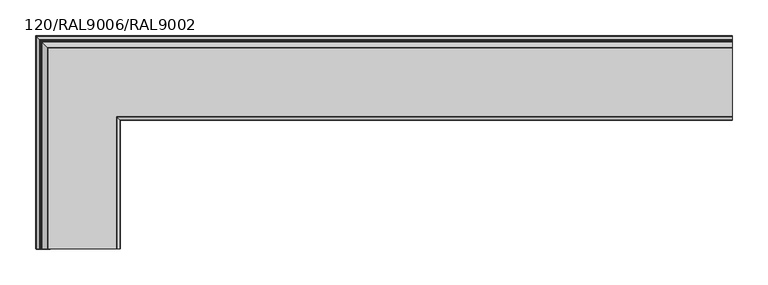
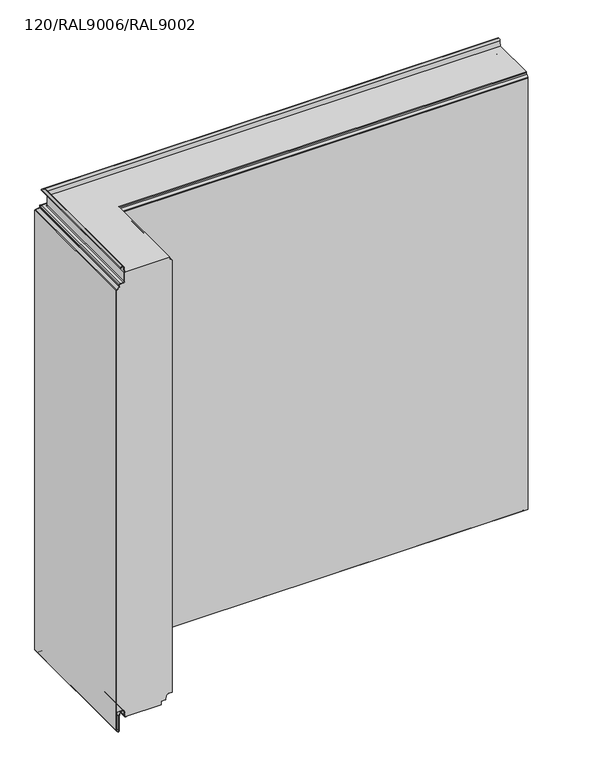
"""IFC4 building model written with IfcOpenShell, lengths in millimetres: plate geometry, TR_C_H_FHL_Corner_Tr_B : 120/RAL9006/RAL9002."""

from ifc_helpers import new_model, si_unit, frame, origin, place, context, project, spatial, polyline, circle_curve, ellipse_curve, source, transform, mapped, element, save
from ifc_brep_helpers import plane_surface, cylinder_surface, revolved_surface, advanced_brep


def plate_120_ral9006_ral9002_1deed0a9(model_context):
    return source(origin(), model_context, "Body", "AdvancedBrep", [
        advanced_brep(
        [(490.0, -17.4455763, 1000.0), (490.0, -113.2, 1000.0), (490.0, -113.2, 998.1), (490.0, -114.1665476, 995.7665476), (490.0, -118.5556349, 991.3774603), (490.0, -119.2, 989.8218254), (490.0, -119.2, 19.9), (490.0, -110.55, 19.9), (490.0, -106.364567, 16.3880048), (490.0, -105.0281817, 8.808987), (490.0, -103.9448932, 7.9), (490.0, -94.86, 7.9), (490.0, -94.86, 0.0), (490.0, -20.8, 0.0), (490.0, -19.7908279, 0.1), (490.0, -18.0972969, 1.6518352), (490.0, -17.2333835, 11.5264116), (490.0, -12.3520294, 15.9993484), (490.0, -0.8, 15.9993484), (490.0, -0.8, 963.4370797), (490.0, -1.3564971, 964.7805826), (490.0, -6.179899, 969.6039845), (490.0, -7.0, 971.5838835), (490.0, -7.0, 974.4), (490.0, -8.9, 976.3), (490.0, -14.8, 976.3), (490.0, -17.6, 979.1), (490.0, -17.6, 998.2349288), (-472.5544237, -17.4455763, 1000.0), (-472.5544237, -300.0, 1000.0), (-376.8, -300.0, 1000.0), (-376.8, -113.2, 1000.0), (-370.8, -119.2, 989.8218254), (-370.8, -119.2, 19.9), (-395.14, -94.86, 0.0), (-395.14, -300.0, 0.0), (-469.2, -300.0, 0.0), (-469.2, -20.8, 0.0), (-489.2, -0.8, 15.9993484), (-489.2, -0.8, 963.4370797), (-472.4, -300.0, 998.2349288), (-472.4, -300.0, 979.1), (-475.2, -300.0, 976.3), (-481.1, -300.0, 976.3), (-483.0, -300.0, 974.4), (-483.0, -300.0, 971.5838835), (-483.820101, -300.0, 969.6039845), (-488.6435029, -300.0, 964.7805826), (-489.2, -300.0, 963.4370797), (-489.2, -300.0, 15.9993484), (-477.6479706, -300.0, 15.9993484), (-472.7666165, -300.0, 11.5264116), (-471.9027031, -300.0, 1.6518352), (-470.2091721, -300.0, 0.1), (-395.14, -300.0, 7.9), (-386.0551068, -300.0, 7.9), (-384.9718183, -300.0, 8.808987), (-383.635433, -300.0, 16.3880048), (-379.45, -300.0, 19.9), (-370.8, -300.0, 19.9), (-370.8, -300.0, 989.8218254), (-371.4443651, -300.0, 991.3774603), (-375.8334524, -300.0, 995.7665476), (-376.8, -300.0, 998.1), (-376.8, -113.2, 998.1), (-375.8334524, -114.1665476, 995.7665476), (-371.4443651, -118.5556349, 991.3774603), (-379.45, -110.55, 19.9), (-383.635433, -106.364567, 16.3880048), (-384.9718183, -105.0281817, 8.808987), (-386.0551068, -103.9448932, 7.9), (-395.14, -94.86, 7.9), (-470.2091721, -19.7908279, 0.1), (-471.9027031, -18.0972969, 1.6518352), (-472.7666165, -17.2333835, 11.5264116), (-477.6479706, -12.3520294, 15.9993484), (-488.6435029, -1.3564971, 964.7805826), (-483.820101, -6.179899, 969.6039845), (-483.0, -7.0, 971.5838835), (-483.0, -7.0, 974.4), (-481.1, -8.9, 976.3), (-475.2, -14.8, 976.3), (-472.4, -17.6, 979.1), (-472.4, -17.6, 998.2349288)],
        [
            (0, 1),
            (1, 2),
            (2, 3, circle_curve(frame((490.0, -116.5, 998.1), z_axis=(-1.0, 0.0, 0.0), x_axis=(0.0, -1.0, 0.0)), 3.3)),
            (3, 4),
            (4, 5, circle_curve(frame((490.0, -117.0, 989.8218254), z_axis=(1.0, 0.0, 0.0), x_axis=(0.0, -1.0, 0.0)), 2.2)),
            (5, 6),
            (6, 7),
            (7, 8, circle_curve(frame((490.0, -110.55, 15.65), z_axis=(-1.0, 0.0, 0.0), x_axis=(0.0, -1.0, 0.0)), 4.25)),
            (8, 9),
            (9, 10, circle_curve(frame((490.0, -103.9448932, 9.0), z_axis=(1.0, 0.0, 0.0), x_axis=(0.0, -1.0, 0.0)), 1.1)),
            (10, 11),
            (11, 12),
            (12, 13),
            (13, 14),
            (14, 15, circle_curve(frame((490.0, -19.7908279, 1.8), z_axis=(1.0, 0.0, 0.0), x_axis=(0.0, -1.0, 0.0)), 1.7)),
            (15, 16),
            (16, 17, circle_curve(frame((490.0, -12.3520294, 11.0993484), z_axis=(-1.0, 0.0, 0.0), x_axis=(0.0, -1.0, 0.0)), 4.9)),
            (17, 18),
            (18, 19),
            (19, 20, circle_curve(frame((490.0, -2.7, 963.4370797), z_axis=(1.0, 0.0, 0.0), x_axis=(0.0, -1.0, 0.0)), 1.9)),
            (20, 21),
            (21, 22, circle_curve(frame((490.0, -4.2, 971.5838835), z_axis=(-1.0, 0.0, 0.0), x_axis=(0.0, -1.0, 0.0)), 2.8)),
            (22, 23),
            (23, 24, circle_curve(frame((490.0, -8.9, 974.4), z_axis=(1.0, 0.0, 0.0), x_axis=(0.0, -1.0, 0.0)), 1.9)),
            (24, 25),
            (25, 26, circle_curve(frame((490.0, -14.8, 979.1), z_axis=(-1.0, 0.0, 0.0), x_axis=(0.0, -1.0, 0.0)), 2.8)),
            (26, 27),
            (27, 0),
            (0, 28),
            (28, 29),
            (29, 30),
            (30, 31),
            (31, 1),
            (5, 32),
            (32, 33),
            (33, 6),
            (12, 34),
            (34, 35),
            (35, 36),
            (36, 37),
            (37, 13),
            (18, 38),
            (38, 39),
            (39, 19),
            (29, 40),
            (40, 41),
            (41, 42, circle_curve(frame((-475.2, -300.0, 979.1), z_axis=(0.0, 1.0, 0.0), x_axis=(1.0, 0.0, 0.0)), 2.8)),
            (42, 43),
            (43, 44, circle_curve(frame((-481.1, -300.0, 974.4), z_axis=(0.0, -1.0, 0.0), x_axis=(1.0, 0.0, 0.0)), 1.9)),
            (44, 45),
            (45, 46, circle_curve(frame((-485.8, -300.0, 971.5838835), z_axis=(0.0, 1.0, 0.0), x_axis=(1.0, 0.0, 0.0)), 2.8)),
            (46, 47),
            (47, 48, circle_curve(frame((-487.3, -300.0, 963.4370797), z_axis=(0.0, -1.0, 0.0), x_axis=(1.0, 0.0, 0.0)), 1.9)),
            (48, 49),
            (49, 50),
            (50, 51, circle_curve(frame((-477.6479706, -300.0, 11.0993484), z_axis=(0.0, 1.0, 0.0), x_axis=(1.0, 0.0, 0.0)), 4.9)),
            (51, 52),
            (52, 53, circle_curve(frame((-470.2091721, -300.0, 1.8), z_axis=(0.0, -1.0, 0.0), x_axis=(1.0, 0.0, 0.0)), 1.7)),
            (53, 36),
            (35, 54),
            (54, 55),
            (55, 56, circle_curve(frame((-386.0551068, -300.0, 9.0), z_axis=(0.0, -1.0, 0.0), x_axis=(1.0, 0.0, 0.0)), 1.1)),
            (56, 57),
            (57, 58, circle_curve(frame((-379.45, -300.0, 15.65), z_axis=(0.0, 1.0, 0.0), x_axis=(1.0, 0.0, 0.0)), 4.25)),
            (58, 59),
            (59, 60),
            (60, 61, circle_curve(frame((-373.0, -300.0, 989.8218254), z_axis=(0.0, -1.0, 0.0), x_axis=(1.0, 0.0, 0.0)), 2.2)),
            (61, 62),
            (62, 63, circle_curve(frame((-373.5, -300.0, 998.1), z_axis=(0.0, 1.0, 0.0), x_axis=(1.0, 0.0, 0.0)), 3.3)),
            (63, 30),
            (32, 60),
            (59, 33),
            (38, 49),
            (48, 39),
            (31, 64),
            (64, 2),
            (64, 65, ellipse_curve(frame((-373.5, -116.5, 998.1), z_axis=(-0.7071067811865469, -0.7071067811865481, 0.0), x_axis=(-0.7071067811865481, 0.7071067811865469, 0.0)), 4.6669048, 3.3)),
            (65, 3),
            (65, 66),
            (66, 4),
            (66, 32, ellipse_curve(frame((-373.0, -117.0, 989.8218254), z_axis=(0.7071067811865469, 0.7071067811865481, 0.0), x_axis=(0.7071067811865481, -0.7071067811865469, 0.0)), 3.1112698, 2.2)),
            (58, 67),
            (67, 7),
            (67, 68, ellipse_curve(frame((-379.45, -110.55, 15.65), z_axis=(-0.7071067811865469, -0.7071067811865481, 0.0), x_axis=(-0.7071067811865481, 0.7071067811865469, 0.0)), 6.0104076, 4.25)),
            (68, 8),
            (68, 69),
            (69, 9),
            (69, 70, ellipse_curve(frame((-386.0551068, -103.9448932, 9.0), z_axis=(0.7071067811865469, 0.7071067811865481, 0.0), x_axis=(0.7071067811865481, -0.7071067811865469, 0.0)), 1.5556349, 1.1)),
            (70, 10),
            (70, 55),
            (54, 71),
            (71, 11),
            (71, 34),
            (37, 72),
            (72, 14),
            (72, 73, ellipse_curve(frame((-470.2091721, -19.7908279, 1.8), z_axis=(0.7071067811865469, 0.7071067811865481, 0.0), x_axis=(0.7071067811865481, -0.7071067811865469, 0.0)), 2.4041631, 1.7)),
            (73, 15),
            (73, 74),
            (74, 16),
            (74, 75, ellipse_curve(frame((-477.6479706, -12.3520294, 11.0993484), z_axis=(-0.7071067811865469, -0.7071067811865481, 0.0), x_axis=(-0.7071067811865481, 0.7071067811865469, 0.0)), 6.9296465, 4.9)),
            (75, 17),
            (75, 50),
            (39, 76, ellipse_curve(frame((-487.3, -2.7, 963.4370797), z_axis=(0.7071067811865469, 0.7071067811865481, 0.0), x_axis=(0.7071067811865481, -0.7071067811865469, 0.0)), 2.6870058, 1.9)),
            (76, 20),
            (76, 77),
            (77, 21),
            (77, 78, ellipse_curve(frame((-485.8, -4.2, 971.5838835), z_axis=(-0.7071067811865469, -0.7071067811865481, 0.0), x_axis=(-0.7071067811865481, 0.7071067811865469, 0.0)), 3.959798, 2.8)),
            (78, 22),
            (78, 79),
            (79, 23),
            (79, 80, ellipse_curve(frame((-481.1, -8.9, 974.4), z_axis=(0.7071067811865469, 0.7071067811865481, 0.0), x_axis=(0.7071067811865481, -0.7071067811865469, 0.0)), 2.6870058, 1.9)),
            (80, 24),
            (80, 43),
            (42, 81),
            (81, 25),
            (81, 82, ellipse_curve(frame((-475.2, -14.8, 979.1), z_axis=(-0.7071067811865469, -0.7071067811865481, 0.0), x_axis=(-0.7071067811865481, 0.7071067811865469, 0.0)), 3.959798, 2.8)),
            (82, 26),
            (82, 83),
            (83, 27),
            (83, 28),
            (63, 64),
            (62, 65),
            (61, 66),
            (57, 68),
            (56, 69),
            (53, 72),
            (52, 73),
            (51, 74),
            (47, 76),
            (46, 77),
            (45, 78),
            (44, 79),
            (41, 82),
            (40, 83),
        ],
        [
            plane_surface(frame((490.0, 0.0, 0.0), z_axis=(1.0, 0.0, 0.0), x_axis=(0.0, 0.0, 1.0))),
            plane_surface(frame((490.0, -17.4455763, 1000.0), z_axis=(0.0, 0.0, 1.0), x_axis=(-1.0, 0.0, 0.0))),
            plane_surface(frame((490.0, -119.2, 989.8218254), z_axis=(0.0, -1.0, 0.0), x_axis=(-1.0, 0.0, 0.0))),
            plane_surface(frame((490.0, -94.86, 0.0), z_axis=(0.0, 0.0, -1.0), x_axis=(-1.0, 0.0, 0.0))),
            plane_surface(frame((490.0, -0.8, 15.9993484), z_axis=(0.0, 1.0, 0.0), x_axis=(-1.0, 0.0, 0.0))),
            plane_surface(frame((-490.0, -300.0, 0.0), z_axis=(0.0, -1.0, 0.0), x_axis=(0.0, 0.0, 1.0))),
            plane_surface(frame((-370.8, -119.2, 989.8218254), z_axis=(1.0, 0.0, 0.0), x_axis=(0.0, -1.0, 0.0))),
            plane_surface(frame((-489.2, -0.8, 15.9993484), z_axis=(-1.0, 0.0, 0.0), x_axis=(0.0, -1.0, 0.0))),
            plane_surface(frame((490.0, -113.2, 1000.0), z_axis=(0.0, -1.0, 0.0), x_axis=(-1.0, 0.0, 0.0))),
            revolved_surface(polyline([(-376.800000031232, -119.8, 998.1), (490.0, -119.8, 998.1)]), (490.0, -116.5, 998.1), (-1.0, 0.0, 0.0)),
            plane_surface(frame((490.0, -114.1665476, 995.7665476), z_axis=(0.0, -0.7071067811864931, 0.7071067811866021), x_axis=(-1.0, 0.0, 0.0))),
            cylinder_surface(frame((490.0, -117.0, 989.8218254), z_axis=(1.0, 0.0, 0.0), x_axis=(0.0, -1.0, 0.0)), 2.2),
            plane_surface(frame((490.0, -119.2, 19.9), z_axis=(0.0, 0.0, -1.0), x_axis=(-1.0, 0.0, 0.0))),
            revolved_surface(polyline([(-383.6999999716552, -114.8, 15.65), (490.0, -114.8, 15.65)]), (490.0, -110.55, 15.65), (-1.0, 0.0, 0.0)),
            plane_surface(frame((490.0, -106.364567, 16.3880048), z_axis=(0.0, -0.9848077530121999, -0.17364817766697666), x_axis=(-1.0, 0.0, 0.0))),
            cylinder_surface(frame((490.0, -103.9448932, 9.0), z_axis=(1.0, 0.0, 0.0), x_axis=(0.0, -1.0, 0.0)), 1.1),
            plane_surface(frame((490.0, -103.9448932, 7.9), z_axis=(0.0, 0.0, -1.0), x_axis=(-1.0, 0.0, 0.0))),
            plane_surface(frame((490.0, -94.86, 7.9), z_axis=(0.0, -1.0, 0.0), x_axis=(-1.0, 0.0, 0.0))),
            plane_surface(frame((490.0, -20.8, 0.0), z_axis=(0.0, 0.09860819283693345, -0.9951263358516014), x_axis=(-1.0, 0.0, 0.0))),
            cylinder_surface(frame((490.0, -19.7908279, 1.8), z_axis=(1.0, 0.0, 0.0), x_axis=(0.0, -1.0, 0.0)), 1.7),
            plane_surface(frame((490.0, -18.0972969, 1.6518352), z_axis=(0.0, 0.9961946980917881, -0.08715574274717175), x_axis=(-1.0, 0.0, 0.0))),
            revolved_surface(polyline([(-482.5479706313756, -17.252029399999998, 11.0993484), (490.0, -17.252029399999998, 11.0993484)]), (490.0, -12.3520294, 11.0993484), (-1.0, 0.0, 0.0)),
            plane_surface(frame((490.0, -12.3520294, 15.9993484), z_axis=(0.0, 0.0, -1.0), x_axis=(-1.0, 0.0, 0.0))),
            cylinder_surface(frame((490.0, -2.7, 963.4370797), z_axis=(1.0, 0.0, 0.0), x_axis=(0.0, -1.0, 0.0)), 1.9),
            plane_surface(frame((490.0, -1.3564971, 964.7805826), z_axis=(0.0, 0.7071067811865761, 0.707106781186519), x_axis=(-1.0, 0.0, 0.0))),
            revolved_surface(polyline([(-488.6000000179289, -7.0, 971.5838835), (490.0, -7.0, 971.5838835)]), (490.0, -4.2, 971.5838835), (-1.0, 0.0, 0.0)),
            plane_surface(frame((490.0, -7.0, 971.5838835), z_axis=(0.0, 1.0, 0.0), x_axis=(-1.0, 0.0, 0.0))),
            cylinder_surface(frame((490.0, -8.9, 974.4), z_axis=(1.0, 0.0, 0.0), x_axis=(0.0, -1.0, 0.0)), 1.9),
            plane_surface(frame((490.0, -8.9, 976.3), z_axis=(0.0, 0.0, 1.0), x_axis=(-1.0, 0.0, 0.0))),
            revolved_surface(polyline([(-478.000000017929, -17.6, 979.1), (490.0, -17.6, 979.1)]), (490.0, -14.8, 979.1), (-1.0, 0.0, 0.0)),
            plane_surface(frame((490.0, -17.6, 979.1), z_axis=(0.0, 1.0, 0.0), x_axis=(-1.0, 0.0, 0.0))),
            plane_surface(frame((490.0, -17.6, 998.2349288), z_axis=(0.0, 0.9961946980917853, -0.08715574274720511), x_axis=(-1.0, 0.0, 0.0))),
            plane_surface(frame((-376.8, -113.2, 1000.0), z_axis=(1.0, 0.0, 0.0), x_axis=(0.0, -1.0, 0.0))),
            revolved_surface(polyline([(-370.2, -300.0, 998.1), (-370.2, -113.19999996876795, 998.1)]), (-373.5, 0.0, 998.1), (0.0, -1.0, 0.0)),
            plane_surface(frame((-375.8334524, -114.1665476, 995.7665476), z_axis=(0.7071067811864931, 0.0, 0.7071067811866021), x_axis=(0.0, -1.0, 0.0))),
            cylinder_surface(frame((-373.0, 0.0, 989.8218254), z_axis=(0.0, 1.0, 0.0), x_axis=(1.0, 0.0, 0.0)), 2.2),
            revolved_surface(polyline([(-375.2, -300.0, 15.65), (-375.2, -106.30000002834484, 15.65)]), (-379.45, 0.0, 15.65), (0.0, -1.0, 0.0)),
            plane_surface(frame((-383.635433, -106.364567, 16.3880048), z_axis=(0.9848077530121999, 0.0, -0.17364817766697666), x_axis=(0.0, -1.0, 0.0))),
            cylinder_surface(frame((-386.0551068, 0.0, 9.0), z_axis=(0.0, 1.0, 0.0), x_axis=(1.0, 0.0, 0.0)), 1.1),
            plane_surface(frame((-395.14, -94.86, 7.9), z_axis=(1.0, 0.0, 0.0), x_axis=(0.0, -1.0, 0.0))),
            plane_surface(frame((-469.2, -20.8, 0.0), z_axis=(-0.09860819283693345, 0.0, -0.9951263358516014), x_axis=(0.0, -1.0, 0.0))),
            cylinder_surface(frame((-470.2091721, 0.0, 1.8), z_axis=(0.0, 1.0, 0.0), x_axis=(1.0, 0.0, 0.0)), 1.7),
            plane_surface(frame((-471.9027031, -18.0972969, 1.6518352), z_axis=(-0.9961946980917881, 0.0, -0.08715574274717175), x_axis=(0.0, -1.0, 0.0))),
            revolved_surface(polyline([(-472.74797060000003, -300.0, 11.0993484), (-472.74797060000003, -7.452029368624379, 11.0993484)]), (-477.6479706, 0.0, 11.0993484), (0.0, -1.0, 0.0)),
            cylinder_surface(frame((-487.3, 0.0, 963.4370797), z_axis=(0.0, 1.0, 0.0), x_axis=(1.0, 0.0, 0.0)), 1.9),
            plane_surface(frame((-488.6435029, -1.3564971, 964.7805826), z_axis=(-0.7071067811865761, 0.0, 0.707106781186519), x_axis=(0.0, -1.0, 0.0))),
            revolved_surface(polyline([(-483.0, -300.0, 971.5838835), (-483.0, -1.399999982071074, 971.5838835)]), (-485.8, 0.0, 971.5838835), (0.0, -1.0, 0.0)),
            plane_surface(frame((-483.0, -7.0, 971.5838835), z_axis=(-1.0, 0.0, 0.0), x_axis=(0.0, -1.0, 0.0))),
            cylinder_surface(frame((-481.1, 0.0, 974.4), z_axis=(0.0, 1.0, 0.0), x_axis=(1.0, 0.0, 0.0)), 1.9),
            revolved_surface(polyline([(-472.4, -300.0, 979.1), (-472.4, -11.999999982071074, 979.1)]), (-475.2, 0.0, 979.1), (0.0, -1.0, 0.0)),
            plane_surface(frame((-472.4, -17.6, 979.1), z_axis=(-1.0, 0.0, 0.0), x_axis=(0.0, -1.0, 0.0))),
            plane_surface(frame((-472.4, -17.6, 998.2349288), z_axis=(-0.9961946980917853, 0.0, -0.08715574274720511), x_axis=(0.0, -1.0, 0.0))),
        ],
        [
            (0, [[1, 2, 3, 4, 5, 6, 7, 8, 9, 10, 11, 12, 13, 14, 15, 16, 17, 18, 19, 20, 21, 22, 23, 24, 25, 26, 27, 28]]),
            (1, [[-1, 29, 30, 31, 32, 33]]),
            (2, [[-6, 34, 35, 36]]),
            (3, [[-13, 37, 38, 39, 40, 41]]),
            (4, [[-19, 42, 43, 44]]),
            (5, [[45, 46, 47, 48, 49, 50, 51, 52, 53, 54, 55, 56, 57, 58, 59, -39, 60, 61, 62, 63, 64, 65, 66, 67, 68, 69, 70, -31]]),
            (6, [[-35, 71, -66, 72]]),
            (7, [[-43, 73, -54, 74]]),
            (8, [[-2, -33, 75, 76]]),
            (9, [[-3, -76, 77, 78]]),
            (10, [[-4, -78, 79, 80]]),
            (11, [[-5, -80, 81, -34]]),
            (12, [[-7, -36, -72, -65, 82, 83]]),
            (13, [[-8, -83, 84, 85]]),
            (14, [[-9, -85, 86, 87]]),
            (15, [[-10, -87, 88, 89]]),
            (16, [[-11, -89, 90, -61, 91, 92]]),
            (17, [[-12, -92, 93, -37]]),
            (18, [[-14, -41, 94, 95]]),
            (19, [[-15, -95, 96, 97]]),
            (20, [[-16, -97, 98, 99]]),
            (21, [[-17, -99, 100, 101]]),
            (22, [[-18, -101, 102, -55, -73, -42]]),
            (23, [[-20, -44, 103, 104]]),
            (24, [[-21, -104, 105, 106]]),
            (25, [[-22, -106, 107, 108]]),
            (26, [[-23, -108, 109, 110]]),
            (27, [[-24, -110, 111, 112]]),
            (28, [[-25, -112, 113, -48, 114, 115]]),
            (29, [[-26, -115, 116, 117]]),
            (30, [[-27, -117, 118, 119]]),
            (31, [[-28, -119, 120, -29]]),
            (32, [[-75, -32, -70, 121]]),
            (33, [[-77, -121, -69, 122]]),
            (34, [[-79, -122, -68, 123]]),
            (35, [[-81, -123, -67, -71]]),
            (36, [[-84, -82, -64, 124]]),
            (37, [[-86, -124, -63, 125]]),
            (38, [[-88, -125, -62, -90]]),
            (39, [[-93, -91, -60, -38]]),
            (40, [[-94, -40, -59, 126]]),
            (41, [[-96, -126, -58, 127]]),
            (42, [[-98, -127, -57, 128]]),
            (43, [[-100, -128, -56, -102]]),
            (44, [[-103, -74, -53, 129]]),
            (45, [[-105, -129, -52, 130]]),
            (46, [[-107, -130, -51, 131]]),
            (47, [[-109, -131, -50, 132]]),
            (48, [[-111, -132, -49, -113]]),
            (49, [[-116, -114, -47, 133]]),
            (50, [[-118, -133, -46, 134]]),
            (51, [[-120, -134, -45, -30]]),
        ],
    ),
        advanced_brep(
        [(490.0, 0.0, 963.4370797), (490.0, -0.7908117, 965.346268), (490.0, -5.6142136, 970.1696699), (490.0, -6.2, 971.5838835), (490.0, -6.2, 974.4), (490.0, -8.9, 977.1), (490.0, -14.8, 977.1), (490.0, -16.8, 979.1), (490.0, -16.8, 998.2), (490.0, -15.7082379, 1010.6788984), (490.0, -9.4947554, 1011.4418181), (490.0, -9.1851412, 1010.5426332), (490.0, -8.4287263, 1010.8030877), (490.0, -8.7383405, 1011.7022726), (490.0, -16.5051936, 1010.748623), (490.0, -17.6, 998.2349288), (490.0, -17.6, 979.1), (490.0, -14.8, 976.3), (490.0, -8.9, 976.3), (490.0, -7.0, 974.4), (490.0, -7.0, 971.5838835), (490.0, -6.179899, 969.6039845), (490.0, -1.3564971, 964.7805826), (490.0, -0.8, 963.4370797), (490.0, -0.8, -25.1006169), (490.0, -1.4042031, -26.4901889), (490.0, -3.3498018, -28.3044891), (490.0, -5.2, -27.5), (490.0, -5.2, 4.8267282), (490.0, -5.3797887, 5.9011031), (490.0, -7.7189884, 12.6946324), (490.0, -17.2333835, 11.5264116), (490.0, -18.0972969, 1.6518352), (490.0, -19.7908279, 0.1), (490.0, -20.8, 0.1), (490.0, -20.8, -0.7), (490.0, -19.7908279, -0.7), (490.0, -17.3003412, 1.5821106), (490.0, -16.4364277, 11.456687), (490.0, -8.4754033, 12.4341779), (490.0, -6.1362036, 5.6406486), (490.0, -6.0, 4.8267282), (490.0, -6.0, -27.5), (490.0, -2.8042031, -28.889572), (490.0, -0.8586044, -27.0752719), (490.0, 0.0, -25.1006169), (-489.2, -0.8, 963.4370797), (-489.2, -0.8, -25.1006169), (-490.0, 0.0, -25.1006169), (-490.0, 0.0, 963.4370797), (-490.0, -300.0, 963.4370797), (-490.0, -300.0, -25.1006169), (-489.1413956, -300.0, -27.0752719), (-487.1957969, -300.0, -28.889572), (-484.0, -300.0, -27.5), (-484.0, -300.0, 4.8267282), (-483.8637964, -300.0, 5.6406486), (-481.5245967, -300.0, 12.4341779), (-473.5635723, -300.0, 11.456687), (-472.6996588, -300.0, 1.5821106), (-470.2091721, -300.0, -0.7), (-469.2, -300.0, -0.7), (-469.2, -300.0, 0.1), (-470.2091721, -300.0, 0.1), (-471.9027031, -300.0, 1.6518352), (-472.7666165, -300.0, 11.5264116), (-482.2810116, -300.0, 12.6946324), (-484.6202113, -300.0, 5.9011031), (-484.8, -300.0, 4.8267282), (-484.8, -300.0, -27.5), (-486.6501982, -300.0, -28.3044891), (-488.5957969, -300.0, -26.4901889), (-489.2, -300.0, -25.1006169), (-489.2, -300.0, 963.4370797), (-488.6435029, -300.0, 964.7805826), (-483.820101, -300.0, 969.6039845), (-483.0, -300.0, 971.5838835), (-483.0, -300.0, 974.4), (-481.1, -300.0, 976.3), (-475.2, -300.0, 976.3), (-472.4, -300.0, 979.1), (-472.4, -300.0, 998.2349288), (-473.4948064, -300.0, 1010.748623), (-481.2616595, -300.0, 1011.7022726), (-481.5712737, -300.0, 1010.8030877), (-480.8148588, -300.0, 1010.5426332), (-480.5052446, -300.0, 1011.4418181), (-474.2917621, -300.0, 1010.6788984), (-473.2, -300.0, 998.2), (-473.2, -300.0, 979.1), (-475.2, -300.0, 977.1), (-481.1, -300.0, 977.1), (-483.8, -300.0, 974.4), (-483.8, -300.0, 971.5838835), (-484.3857864, -300.0, 970.1696699), (-489.2091883, -300.0, 965.346268), (-489.2091883, -0.7908117, 965.346268), (-484.3857864, -5.6142136, 970.1696699), (-483.8, -6.2, 971.5838835), (-483.8, -6.2, 974.4), (-481.1, -8.9, 977.1), (-475.2, -14.8, 977.1), (-473.2, -16.8, 979.1), (-473.2, -16.8, 998.2), (-474.2917621, -15.7082379, 1010.6788984), (-480.5052446, -9.4947554, 1011.4418181), (-480.8148588, -9.1851412, 1010.5426332), (-481.5712737, -8.4287263, 1010.8030877), (-481.2616595, -8.7383405, 1011.7022726), (-473.4948064, -16.5051936, 1010.748623), (-472.4, -17.6, 998.2349288), (-472.4, -17.6, 979.1), (-475.2, -14.8, 976.3), (-481.1, -8.9, 976.3), (-483.0, -7.0, 974.4), (-483.0, -7.0, 971.5838835), (-483.820101, -6.179899, 969.6039845), (-488.6435029, -1.3564971, 964.7805826), (-488.5957969, -1.4042031, -26.4901889), (-486.6501982, -3.3498018, -28.3044891), (-484.8, -5.2, -27.5), (-484.8, -5.2, 4.8267282), (-484.6202113, -5.3797887, 5.9011031), (-482.2810116, -7.7189884, 12.6946324), (-472.7666165, -17.2333835, 11.5264116), (-471.9027031, -18.0972969, 1.6518352), (-470.2091721, -19.7908279, 0.1), (-469.2, -20.8, 0.1), (-469.2, -20.8, -0.7), (-470.2091721, -19.7908279, -0.7), (-472.6996588, -17.3003412, 1.5821106), (-473.5635723, -16.4364277, 11.456687), (-481.5245967, -8.4754033, 12.4341779), (-483.8637964, -6.1362036, 5.6406486), (-484.0, -6.0, 4.8267282), (-484.0, -6.0, -27.5), (-487.1957969, -2.8042031, -28.889572), (-489.1413956, -0.8586044, -27.0752719)],
        [
            (0, 1, circle_curve(frame((490.0, -2.7, 963.4370797), z_axis=(1.0, 0.0, 0.0), x_axis=(0.0, -1.0, 0.0)), 2.7)),
            (1, 2),
            (2, 3, circle_curve(frame((490.0, -4.2, 971.5838835), z_axis=(-1.0, 0.0, 0.0), x_axis=(0.0, -1.0, 0.0)), 2.0)),
            (3, 4),
            (4, 5, circle_curve(frame((490.0, -8.9, 974.4), z_axis=(1.0, 0.0, 0.0), x_axis=(0.0, -1.0, 0.0)), 2.7)),
            (5, 6),
            (6, 7, circle_curve(frame((490.0, -14.8, 979.1), z_axis=(-1.0, 0.0, 0.0), x_axis=(0.0, -1.0, 0.0)), 2.0)),
            (7, 8),
            (8, 9),
            (9, 10, circle_curve(frame((490.0, -12.5204148, 1010.4), z_axis=(-1.0, 0.0, 0.0), x_axis=(0.0, -1.0, 0.0)), 3.2)),
            (10, 11),
            (11, 12),
            (12, 13),
            (13, 14, circle_curve(frame((490.0, -12.5204148, 1010.4), z_axis=(1.0, 0.0, 0.0), x_axis=(0.0, -1.0, 0.0)), 4.0)),
            (14, 15),
            (15, 16),
            (16, 17, circle_curve(frame((490.0, -14.8, 979.1), z_axis=(1.0, 0.0, 0.0), x_axis=(0.0, -1.0, 0.0)), 2.8)),
            (17, 18),
            (18, 19, circle_curve(frame((490.0, -8.9, 974.4), z_axis=(-1.0, 0.0, 0.0), x_axis=(0.0, -1.0, 0.0)), 1.9)),
            (19, 20),
            (20, 21, circle_curve(frame((490.0, -4.2, 971.5838835), z_axis=(1.0, 0.0, 0.0), x_axis=(0.0, -1.0, 0.0)), 2.8)),
            (21, 22),
            (22, 23, circle_curve(frame((490.0, -2.7, 963.4370797), z_axis=(-1.0, 0.0, 0.0), x_axis=(0.0, -1.0, 0.0)), 1.9)),
            (23, 24),
            (24, 25, circle_curve(frame((490.0, -2.7, -25.1006169), z_axis=(-1.0, 0.0, 0.0), x_axis=(0.0, -1.0, 0.0)), 1.9)),
            (25, 26),
            (26, 27, circle_curve(frame((490.0, -4.1, -27.5), z_axis=(-1.0, 0.0, 0.0), x_axis=(0.0, -1.0, 0.0)), 1.1)),
            (27, 28),
            (28, 29, circle_curve(frame((490.0, -8.5, 4.8267282), z_axis=(1.0, 0.0, 0.0), x_axis=(0.0, -1.0, 0.0)), 3.3)),
            (29, 30),
            (30, 31, circle_curve(frame((490.0, -12.3520294, 11.0993484), z_axis=(1.0, 0.0, 0.0), x_axis=(0.0, -1.0, 0.0)), 4.9)),
            (31, 32),
            (32, 33, circle_curve(frame((490.0, -19.7908279, 1.8), z_axis=(-1.0, 0.0, 0.0), x_axis=(0.0, -1.0, 0.0)), 1.7)),
            (33, 34),
            (34, 35),
            (35, 36),
            (36, 37, circle_curve(frame((490.0, -19.7908279, 1.8), z_axis=(1.0, 0.0, 0.0), x_axis=(0.0, -1.0, 0.0)), 2.5)),
            (37, 38),
            (38, 39, circle_curve(frame((490.0, -12.3520294, 11.0993484), z_axis=(-1.0, 0.0, 0.0), x_axis=(0.0, -1.0, 0.0)), 4.1)),
            (39, 40),
            (40, 41, circle_curve(frame((490.0, -8.5, 4.8267282), z_axis=(-1.0, 0.0, 0.0), x_axis=(0.0, -1.0, 0.0)), 2.5)),
            (41, 42),
            (42, 43, circle_curve(frame((490.0, -4.1, -27.5), z_axis=(1.0, 0.0, 0.0), x_axis=(0.0, -1.0, 0.0)), 1.9)),
            (43, 44),
            (44, 45, circle_curve(frame((490.0, -2.7, -25.1006169), z_axis=(1.0, 0.0, 0.0), x_axis=(0.0, -1.0, 0.0)), 2.7)),
            (45, 0),
            (23, 46),
            (46, 47),
            (47, 24),
            (45, 48),
            (48, 49),
            (49, 0),
            (50, 51),
            (51, 52, circle_curve(frame((-487.3, -300.0, -25.1006169), z_axis=(0.0, -1.0, 0.0), x_axis=(1.0, 0.0, 0.0)), 2.7)),
            (52, 53),
            (53, 54, circle_curve(frame((-485.9, -300.0, -27.5), z_axis=(0.0, -1.0, 0.0), x_axis=(1.0, 0.0, 0.0)), 1.9)),
            (54, 55),
            (55, 56, circle_curve(frame((-481.5, -300.0, 4.8267282), z_axis=(0.0, 1.0, 0.0), x_axis=(1.0, 0.0, 0.0)), 2.5)),
            (56, 57),
            (57, 58, circle_curve(frame((-477.6479706, -300.0, 11.0993484), z_axis=(0.0, 1.0, 0.0), x_axis=(1.0, 0.0, 0.0)), 4.1)),
            (58, 59),
            (59, 60, circle_curve(frame((-470.2091721, -300.0, 1.8), z_axis=(0.0, -1.0, 0.0), x_axis=(1.0, 0.0, 0.0)), 2.5)),
            (60, 61),
            (61, 62),
            (62, 63),
            (63, 64, circle_curve(frame((-470.2091721, -300.0, 1.8), z_axis=(0.0, 1.0, 0.0), x_axis=(1.0, 0.0, 0.0)), 1.7)),
            (64, 65),
            (65, 66, circle_curve(frame((-477.6479706, -300.0, 11.0993484), z_axis=(0.0, -1.0, 0.0), x_axis=(1.0, 0.0, 0.0)), 4.9)),
            (66, 67),
            (67, 68, circle_curve(frame((-481.5, -300.0, 4.8267282), z_axis=(0.0, -1.0, 0.0), x_axis=(1.0, 0.0, 0.0)), 3.3)),
            (68, 69),
            (69, 70, circle_curve(frame((-485.9, -300.0, -27.5), z_axis=(0.0, 1.0, 0.0), x_axis=(1.0, 0.0, 0.0)), 1.1)),
            (70, 71),
            (71, 72, circle_curve(frame((-487.3, -300.0, -25.1006169), z_axis=(0.0, 1.0, 0.0), x_axis=(1.0, 0.0, 0.0)), 1.9)),
            (72, 73),
            (73, 74, circle_curve(frame((-487.3, -300.0, 963.4370797), z_axis=(0.0, 1.0, 0.0), x_axis=(1.0, 0.0, 0.0)), 1.9)),
            (74, 75),
            (75, 76, circle_curve(frame((-485.8, -300.0, 971.5838835), z_axis=(0.0, -1.0, 0.0), x_axis=(1.0, 0.0, 0.0)), 2.8)),
            (76, 77),
            (77, 78, circle_curve(frame((-481.1, -300.0, 974.4), z_axis=(0.0, 1.0, 0.0), x_axis=(1.0, 0.0, 0.0)), 1.9)),
            (78, 79),
            (79, 80, circle_curve(frame((-475.2, -300.0, 979.1), z_axis=(0.0, -1.0, 0.0), x_axis=(1.0, 0.0, 0.0)), 2.8)),
            (80, 81),
            (81, 82),
            (82, 83, circle_curve(frame((-477.4795852, -300.0, 1010.4), z_axis=(0.0, -1.0, 0.0), x_axis=(1.0, 0.0, 0.0)), 4.0)),
            (83, 84),
            (84, 85),
            (85, 86),
            (86, 87, circle_curve(frame((-477.4795852, -300.0, 1010.4), z_axis=(0.0, 1.0, 0.0), x_axis=(1.0, 0.0, 0.0)), 3.2)),
            (87, 88),
            (88, 89),
            (89, 90, circle_curve(frame((-475.2, -300.0, 979.1), z_axis=(0.0, 1.0, 0.0), x_axis=(1.0, 0.0, 0.0)), 2.0)),
            (90, 91),
            (91, 92, circle_curve(frame((-481.1, -300.0, 974.4), z_axis=(0.0, -1.0, 0.0), x_axis=(1.0, 0.0, 0.0)), 2.7)),
            (92, 93),
            (93, 94, circle_curve(frame((-485.8, -300.0, 971.5838835), z_axis=(0.0, 1.0, 0.0), x_axis=(1.0, 0.0, 0.0)), 2.0)),
            (94, 95),
            (95, 50, circle_curve(frame((-487.3, -300.0, 963.4370797), z_axis=(0.0, -1.0, 0.0), x_axis=(1.0, 0.0, 0.0)), 2.7)),
            (46, 73),
            (72, 47),
            (48, 51),
            (50, 49),
            (49, 96, ellipse_curve(frame((-487.3, -2.7, 963.4370797), z_axis=(0.7071067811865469, 0.7071067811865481, 0.0), x_axis=(0.7071067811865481, -0.7071067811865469, 0.0)), 3.8183766, 2.7)),
            (96, 1),
            (96, 97),
            (97, 2),
            (97, 98, ellipse_curve(frame((-485.8, -4.2, 971.5838835), z_axis=(-0.7071067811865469, -0.7071067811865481, 0.0), x_axis=(-0.7071067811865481, 0.7071067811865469, 0.0)), 2.8284271, 2.0)),
            (98, 3),
            (98, 99),
            (99, 4),
            (99, 100, ellipse_curve(frame((-481.1, -8.9, 974.4), z_axis=(0.7071067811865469, 0.7071067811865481, 0.0), x_axis=(0.7071067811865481, -0.7071067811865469, 0.0)), 3.8183766, 2.7)),
            (100, 5),
            (100, 91),
            (90, 101),
            (101, 6),
            (101, 102, ellipse_curve(frame((-475.2, -14.8, 979.1), z_axis=(-0.7071067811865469, -0.7071067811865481, 0.0), x_axis=(-0.7071067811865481, 0.7071067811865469, 0.0)), 2.8284271, 2.0)),
            (102, 7),
            (102, 103),
            (103, 8),
            (103, 104),
            (104, 9),
            (104, 105, ellipse_curve(frame((-477.4795852, -12.5204148, 1010.4), z_axis=(-0.7071067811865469, -0.7071067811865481, 0.0), x_axis=(-0.7071067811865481, 0.7071067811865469, 0.0)), 4.5254834, 3.2)),
            (105, 10),
            (105, 106),
            (106, 11),
            (106, 107),
            (107, 12),
            (107, 108),
            (108, 13),
            (108, 109, ellipse_curve(frame((-477.4795852, -12.5204148, 1010.4), z_axis=(0.7071067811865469, 0.7071067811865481, 0.0), x_axis=(0.7071067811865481, -0.7071067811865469, 0.0)), 5.6568542, 4.0)),
            (109, 14),
            (109, 110),
            (110, 15),
            (110, 111),
            (111, 16),
            (111, 112, ellipse_curve(frame((-475.2, -14.8, 979.1), z_axis=(0.7071067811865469, 0.7071067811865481, 0.0), x_axis=(0.7071067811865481, -0.7071067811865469, 0.0)), 3.959798, 2.8)),
            (112, 17),
            (112, 79),
            (78, 113),
            (113, 18),
            (113, 114, ellipse_curve(frame((-481.1, -8.9, 974.4), z_axis=(-0.7071067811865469, -0.7071067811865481, 0.0), x_axis=(-0.7071067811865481, 0.7071067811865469, 0.0)), 2.6870058, 1.9)),
            (114, 19),
            (114, 115),
            (115, 20),
            (115, 116, ellipse_curve(frame((-485.8, -4.2, 971.5838835), z_axis=(0.7071067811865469, 0.7071067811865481, 0.0), x_axis=(0.7071067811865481, -0.7071067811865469, 0.0)), 3.959798, 2.8)),
            (116, 21),
            (116, 117),
            (117, 22),
            (117, 46, ellipse_curve(frame((-487.3, -2.7, 963.4370797), z_axis=(-0.7071067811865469, -0.7071067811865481, 0.0), x_axis=(-0.7071067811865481, 0.7071067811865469, 0.0)), 2.6870058, 1.9)),
            (47, 118, ellipse_curve(frame((-487.3, -2.7, -25.1006169), z_axis=(-0.7071067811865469, -0.7071067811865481, 0.0), x_axis=(-0.7071067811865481, 0.7071067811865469, 0.0)), 2.6870058, 1.9)),
            (118, 25),
            (118, 119),
            (119, 26),
            (119, 120, ellipse_curve(frame((-485.9, -4.1, -27.5), z_axis=(-0.7071067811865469, -0.7071067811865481, 0.0), x_axis=(-0.7071067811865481, 0.7071067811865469, 0.0)), 1.5556349, 1.1)),
            (120, 27),
            (120, 121),
            (121, 28),
            (121, 122, ellipse_curve(frame((-481.5, -8.5, 4.8267282), z_axis=(0.7071067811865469, 0.7071067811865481, 0.0), x_axis=(0.7071067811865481, -0.7071067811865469, 0.0)), 4.6669048, 3.3)),
            (122, 29),
            (122, 123),
            (123, 30),
            (123, 124, ellipse_curve(frame((-477.6479706, -12.3520294, 11.0993484), z_axis=(0.7071067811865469, 0.7071067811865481, 0.0), x_axis=(0.7071067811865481, -0.7071067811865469, 0.0)), 6.9296465, 4.9)),
            (124, 31),
            (124, 125),
            (125, 32),
            (125, 126, ellipse_curve(frame((-470.2091721, -19.7908279, 1.8), z_axis=(-0.7071067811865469, -0.7071067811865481, 0.0), x_axis=(-0.7071067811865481, 0.7071067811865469, 0.0)), 2.4041631, 1.7)),
            (126, 33),
            (126, 63),
            (62, 127),
            (127, 34),
            (127, 128),
            (128, 35),
            (128, 61),
            (60, 129),
            (129, 36),
            (129, 130, ellipse_curve(frame((-470.2091721, -19.7908279, 1.8), z_axis=(0.7071067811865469, 0.7071067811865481, 0.0), x_axis=(0.7071067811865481, -0.7071067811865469, 0.0)), 3.5355339, 2.5)),
            (130, 37),
            (130, 131),
            (131, 38),
            (131, 132, ellipse_curve(frame((-477.6479706, -12.3520294, 11.0993484), z_axis=(-0.7071067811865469, -0.7071067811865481, 0.0), x_axis=(-0.7071067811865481, 0.7071067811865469, 0.0)), 5.7982756, 4.1)),
            (132, 39),
            (132, 133),
            (133, 40),
            (133, 134, ellipse_curve(frame((-481.5, -8.5, 4.8267282), z_axis=(-0.7071067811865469, -0.7071067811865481, 0.0), x_axis=(-0.7071067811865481, 0.7071067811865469, 0.0)), 3.5355339, 2.5)),
            (134, 41),
            (134, 135),
            (135, 42),
            (135, 136, ellipse_curve(frame((-485.9, -4.1, -27.5), z_axis=(0.7071067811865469, 0.7071067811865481, 0.0), x_axis=(0.7071067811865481, -0.7071067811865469, 0.0)), 2.6870058, 1.9)),
            (136, 43),
            (136, 137),
            (137, 44),
            (137, 48, ellipse_curve(frame((-487.3, -2.7, -25.1006169), z_axis=(0.7071067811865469, 0.7071067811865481, 0.0), x_axis=(0.7071067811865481, -0.7071067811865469, 0.0)), 3.8183766, 2.7)),
            (95, 96),
            (94, 97),
            (93, 98),
            (92, 99),
            (89, 102),
            (88, 103),
            (87, 104),
            (86, 105),
            (85, 106),
            (84, 107),
            (83, 108),
            (82, 109),
            (81, 110),
            (80, 111),
            (77, 114),
            (76, 115),
            (75, 116),
            (74, 117),
            (71, 118),
            (70, 119),
            (69, 120),
            (68, 121),
            (67, 122),
            (66, 123),
            (65, 124),
            (64, 125),
            (59, 130),
            (58, 131),
            (57, 132),
            (56, 133),
            (55, 134),
            (54, 135),
            (53, 136),
            (52, 137),
        ],
        [
            plane_surface(frame((490.0, 0.0, 0.0), z_axis=(1.0, 0.0, 0.0), x_axis=(0.0, 0.0, 1.0))),
            plane_surface(frame((490.0, -0.8, 963.4370797), z_axis=(0.0, -1.0, 0.0), x_axis=(-1.0, 0.0, 0.0))),
            plane_surface(frame((490.0, 0.0, -25.1006169), z_axis=(0.0, 1.0, 0.0), x_axis=(-1.0, 0.0, 0.0))),
            plane_surface(frame((-490.0, -300.0, 0.0), z_axis=(0.0, -1.0, 0.0), x_axis=(0.0, 0.0, 1.0))),
            plane_surface(frame((-489.2, -0.8, 963.4370797), z_axis=(1.0, 0.0, 0.0), x_axis=(0.0, -1.0, 0.0))),
            plane_surface(frame((-490.0, 0.0, -25.1006169), z_axis=(-1.0, 0.0, 0.0), x_axis=(0.0, -1.0, 0.0))),
            cylinder_surface(frame((490.0, -2.7, 963.4370797), z_axis=(1.0, 0.0, 0.0), x_axis=(0.0, -1.0, 0.0)), 2.7),
            plane_surface(frame((490.0, -0.7908117, 965.346268), z_axis=(0.0, 0.7071067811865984, 0.7071067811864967), x_axis=(-1.0, 0.0, 0.0))),
            revolved_surface(polyline([(-487.79999998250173, -6.2, 971.5838835), (490.0, -6.2, 971.5838835)]), (490.0, -4.2, 971.5838835), (-1.0, 0.0, 0.0)),
            plane_surface(frame((490.0, -6.2, 971.5838835), z_axis=(0.0, 1.0, 0.0), x_axis=(-1.0, 0.0, 0.0))),
            cylinder_surface(frame((490.0, -8.9, 974.4), z_axis=(1.0, 0.0, 0.0), x_axis=(0.0, -1.0, 0.0)), 2.7),
            plane_surface(frame((490.0, -8.9, 977.1), z_axis=(0.0, 0.0, 1.0), x_axis=(-1.0, 0.0, 0.0))),
            revolved_surface(polyline([(-477.1999999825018, -16.8, 979.1), (490.0, -16.8, 979.1)]), (490.0, -14.8, 979.1), (-1.0, 0.0, 0.0)),
            plane_surface(frame((490.0, -16.8, 979.1), z_axis=(0.0, 1.0, 0.0), x_axis=(-1.0, 0.0, 0.0))),
            plane_surface(frame((490.0, -16.8, 998.2), z_axis=(0.0, 0.996194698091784, -0.08715574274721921), x_axis=(-1.0, 0.0, 0.0))),
            revolved_surface(polyline([(-480.6795852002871, -15.7204148, 1010.4), (490.0, -15.7204148, 1010.4)]), (490.0, -12.5204148, 1010.4), (-1.0, 0.0, 0.0)),
            plane_surface(frame((490.0, -9.4947554, 1011.4418181), z_axis=(0.0, -0.9455185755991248, -0.32556815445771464), x_axis=(-1.0, 0.0, 0.0))),
            plane_surface(frame((490.0, -9.1851412, 1010.5426332), z_axis=(0.0, 0.32556815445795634, -0.9455185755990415), x_axis=(-1.0, 0.0, 0.0))),
            plane_surface(frame((490.0, -8.4287263, 1010.8030877), z_axis=(0.0, 0.9455185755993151, 0.3255681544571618), x_axis=(-1.0, 0.0, 0.0))),
            cylinder_surface(frame((490.0, -12.5204148, 1010.4), z_axis=(1.0, 0.0, 0.0), x_axis=(0.0, -1.0, 0.0)), 4.0),
            plane_surface(frame((490.0, -16.5051936, 1010.748623), z_axis=(0.0, -0.9961946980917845, 0.08715574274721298), x_axis=(-1.0, 0.0, 0.0))),
            plane_surface(frame((490.0, -17.6, 998.2349288), z_axis=(0.0, -1.0, 0.0), x_axis=(-1.0, 0.0, 0.0))),
            cylinder_surface(frame((490.0, -14.8, 979.1), z_axis=(1.0, 0.0, 0.0), x_axis=(0.0, -1.0, 0.0)), 2.8),
            plane_surface(frame((490.0, -14.8, 976.3), z_axis=(0.0, 0.0, -1.0), x_axis=(-1.0, 0.0, 0.0))),
            revolved_surface(polyline([(-483.0000000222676, -10.8, 974.4), (490.0, -10.8, 974.4)]), (490.0, -8.9, 974.4), (-1.0, 0.0, 0.0)),
            plane_surface(frame((490.0, -7.0, 974.4), z_axis=(0.0, -1.0, 0.0), x_axis=(-1.0, 0.0, 0.0))),
            cylinder_surface(frame((490.0, -4.2, 971.5838835), z_axis=(1.0, 0.0, 0.0), x_axis=(0.0, -1.0, 0.0)), 2.8),
            plane_surface(frame((490.0, -6.179899, 969.6039845), z_axis=(0.0, -0.707106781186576, -0.7071067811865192), x_axis=(-1.0, 0.0, 0.0))),
            revolved_surface(polyline([(-489.20000002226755, -4.6, 963.4370797), (490.0, -4.6, 963.4370797)]), (490.0, -2.7, 963.4370797), (-1.0, 0.0, 0.0)),
            revolved_surface(polyline([(-489.20000002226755, -4.6, -25.1006169), (490.0, -4.6, -25.1006169)]), (490.0, -2.7, -25.1006169), (-1.0, 0.0, 0.0)),
            plane_surface(frame((490.0, -1.4042031, -26.4901889), z_axis=(0.0, -0.6819983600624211, 0.7313537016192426), x_axis=(-1.0, 0.0, 0.0))),
            revolved_surface(polyline([(-486.9999999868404, -5.199999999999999, -27.5), (490.0, -5.199999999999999, -27.5)]), (490.0, -4.1, -27.5), (-1.0, 0.0, 0.0)),
            plane_surface(frame((490.0, -5.2, -27.5), z_axis=(0.0, 1.0, 0.0), x_axis=(-1.0, 0.0, 0.0))),
            cylinder_surface(frame((490.0, -8.5, 4.8267282), z_axis=(1.0, 0.0, 0.0), x_axis=(0.0, -1.0, 0.0)), 3.3),
            plane_surface(frame((490.0, -5.3797887, 5.9011031), z_axis=(0.0, 0.9455185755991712, 0.32556815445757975), x_axis=(-1.0, 0.0, 0.0))),
            cylinder_surface(frame((490.0, -12.3520294, 11.0993484), z_axis=(1.0, 0.0, 0.0), x_axis=(0.0, -1.0, 0.0)), 4.9),
            plane_surface(frame((490.0, -17.2333835, 11.5264116), z_axis=(0.0, -0.9961946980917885, 0.087155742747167), x_axis=(-1.0, 0.0, 0.0))),
            revolved_surface(polyline([(-471.90917213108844, -21.4908279, 1.8), (490.0, -21.4908279, 1.8)]), (490.0, -19.7908279, 1.8), (-1.0, 0.0, 0.0)),
            plane_surface(frame((490.0, -19.7908279, 0.1), z_axis=(0.0, 0.0, 1.0), x_axis=(-1.0, 0.0, 0.0))),
            plane_surface(frame((490.0, -20.8, 0.1), z_axis=(0.0, -1.0, 0.0), x_axis=(-1.0, 0.0, 0.0))),
            plane_surface(frame((490.0, -20.8, -0.7), z_axis=(0.0, 0.0, -1.0), x_axis=(-1.0, 0.0, 0.0))),
            cylinder_surface(frame((490.0, -19.7908279, 1.8), z_axis=(1.0, 0.0, 0.0), x_axis=(0.0, -1.0, 0.0)), 2.5),
            plane_surface(frame((490.0, -17.3003412, 1.5821106), z_axis=(0.0, 0.996194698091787, -0.08715574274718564), x_axis=(-1.0, 0.0, 0.0))),
            revolved_surface(polyline([(-481.74797059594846, -16.4520294, 11.0993484), (490.0, -16.4520294, 11.0993484)]), (490.0, -12.3520294, 11.0993484), (-1.0, 0.0, 0.0)),
            plane_surface(frame((490.0, -8.4754033, 12.4341779), z_axis=(0.0, -0.945518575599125, -0.3255681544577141), x_axis=(-1.0, 0.0, 0.0))),
            revolved_surface(polyline([(-484.0, -11.0, 4.8267282), (490.0, -11.0, 4.8267282)]), (490.0, -8.5, 4.8267282), (-1.0, 0.0, 0.0)),
            plane_surface(frame((490.0, -6.0, 4.8267282), z_axis=(0.0, -1.0, 0.0), x_axis=(-1.0, 0.0, 0.0))),
            cylinder_surface(frame((490.0, -4.1, -27.5), z_axis=(1.0, 0.0, 0.0), x_axis=(0.0, -1.0, 0.0)), 1.9),
            plane_surface(frame((490.0, -2.8042031, -28.889572), z_axis=(0.0, 0.6819983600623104, -0.7313537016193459), x_axis=(-1.0, 0.0, 0.0))),
            cylinder_surface(frame((490.0, -2.7, -25.1006169), z_axis=(1.0, 0.0, 0.0), x_axis=(0.0, -1.0, 0.0)), 2.7),
            cylinder_surface(frame((-487.3, 0.0, 963.4370797), z_axis=(0.0, 1.0, 0.0), x_axis=(1.0, 0.0, 0.0)), 2.7),
            plane_surface(frame((-489.2091883, -0.7908117, 965.346268), z_axis=(-0.7071067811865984, 0.0, 0.7071067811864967), x_axis=(0.0, -1.0, 0.0))),
            revolved_surface(polyline([(-483.8, -300.0, 971.5838835), (-483.8, -2.200000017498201, 971.5838835)]), (-485.8, 0.0, 971.5838835), (0.0, -1.0, 0.0)),
            plane_surface(frame((-483.8, -6.2, 971.5838835), z_axis=(-1.0, 0.0, 0.0), x_axis=(0.0, -1.0, 0.0))),
            cylinder_surface(frame((-481.1, 0.0, 974.4), z_axis=(0.0, 1.0, 0.0), x_axis=(1.0, 0.0, 0.0)), 2.7),
            revolved_surface(polyline([(-473.2, -300.0, 979.1), (-473.2, -12.800000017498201, 979.1)]), (-475.2, 0.0, 979.1), (0.0, -1.0, 0.0)),
            plane_surface(frame((-473.2, -16.8, 979.1), z_axis=(-1.0, 0.0, 0.0), x_axis=(0.0, -1.0, 0.0))),
            plane_surface(frame((-473.2, -16.8, 998.2), z_axis=(-0.996194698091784, 0.0, -0.08715574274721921), x_axis=(0.0, -1.0, 0.0))),
            revolved_surface(polyline([(-474.2795852, -300.0, 1010.4), (-474.2795852, -9.32041479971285, 1010.4)]), (-477.4795852, 0.0, 1010.4), (0.0, -1.0, 0.0)),
            plane_surface(frame((-480.5052446, -9.4947554, 1011.4418181), z_axis=(0.9455185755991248, 0.0, -0.32556815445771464), x_axis=(0.0, -1.0, 0.0))),
            plane_surface(frame((-480.8148588, -9.1851412, 1010.5426332), z_axis=(-0.32556815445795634, 0.0, -0.9455185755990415), x_axis=(0.0, -1.0, 0.0))),
            plane_surface(frame((-481.5712737, -8.4287263, 1010.8030877), z_axis=(-0.9455185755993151, 0.0, 0.3255681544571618), x_axis=(0.0, -1.0, 0.0))),
            cylinder_surface(frame((-477.4795852, 0.0, 1010.4), z_axis=(0.0, 1.0, 0.0), x_axis=(1.0, 0.0, 0.0)), 4.0),
            plane_surface(frame((-473.4948064, -16.5051936, 1010.748623), z_axis=(0.9961946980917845, 0.0, 0.08715574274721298), x_axis=(0.0, -1.0, 0.0))),
            plane_surface(frame((-472.4, -17.6, 998.2349288), z_axis=(1.0, 0.0, 0.0), x_axis=(0.0, -1.0, 0.0))),
            cylinder_surface(frame((-475.2, 0.0, 979.1), z_axis=(0.0, 1.0, 0.0), x_axis=(1.0, 0.0, 0.0)), 2.8),
            revolved_surface(polyline([(-479.20000000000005, -300.0, 974.4), (-479.20000000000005, -6.9999999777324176, 974.4)]), (-481.1, 0.0, 974.4), (0.0, -1.0, 0.0)),
            plane_surface(frame((-483.0, -7.0, 974.4), z_axis=(1.0, 0.0, 0.0), x_axis=(0.0, -1.0, 0.0))),
            cylinder_surface(frame((-485.8, 0.0, 971.5838835), z_axis=(0.0, 1.0, 0.0), x_axis=(1.0, 0.0, 0.0)), 2.8),
            plane_surface(frame((-483.820101, -6.179899, 969.6039845), z_axis=(0.707106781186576, 0.0, -0.7071067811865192), x_axis=(0.0, -1.0, 0.0))),
            revolved_surface(polyline([(-485.40000000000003, -300.0, 963.4370797), (-485.40000000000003, -0.7999999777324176, 963.4370797)]), (-487.3, 0.0, 963.4370797), (0.0, -1.0, 0.0)),
            revolved_surface(polyline([(-485.40000000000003, -300.0, -25.1006169), (-485.40000000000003, -0.7999999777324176, -25.1006169)]), (-487.3, 0.0, -25.1006169), (0.0, -1.0, 0.0)),
            plane_surface(frame((-488.5957969, -1.4042031, -26.4901889), z_axis=(0.6819983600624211, 0.0, 0.7313537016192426), x_axis=(0.0, -1.0, 0.0))),
            revolved_surface(polyline([(-484.79999999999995, -300.0, -27.5), (-484.79999999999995, -3.0000000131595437, -27.5)]), (-485.9, 0.0, -27.5), (0.0, -1.0, 0.0)),
            plane_surface(frame((-484.8, -5.2, -27.5), z_axis=(-1.0, 0.0, 0.0), x_axis=(0.0, -1.0, 0.0))),
            cylinder_surface(frame((-481.5, 0.0, 4.8267282), z_axis=(0.0, 1.0, 0.0), x_axis=(1.0, 0.0, 0.0)), 3.3),
            plane_surface(frame((-484.6202113, -5.3797887, 5.9011031), z_axis=(-0.9455185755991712, 0.0, 0.32556815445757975), x_axis=(0.0, -1.0, 0.0))),
            cylinder_surface(frame((-477.6479706, 0.0, 11.0993484), z_axis=(0.0, 1.0, 0.0), x_axis=(1.0, 0.0, 0.0)), 4.9),
            plane_surface(frame((-472.7666165, -17.2333835, 11.5264116), z_axis=(0.9961946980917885, 0.0, 0.087155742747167), x_axis=(0.0, -1.0, 0.0))),
            revolved_surface(polyline([(-468.5091721, -300.0, 1.8), (-468.5091721, -18.09082786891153, 1.8)]), (-470.2091721, 0.0, 1.8), (0.0, -1.0, 0.0)),
            plane_surface(frame((-469.2, -20.8, 0.1), z_axis=(1.0, 0.0, 0.0), x_axis=(0.0, -1.0, 0.0))),
            cylinder_surface(frame((-470.2091721, 0.0, 1.8), z_axis=(0.0, 1.0, 0.0), x_axis=(1.0, 0.0, 0.0)), 2.5),
            plane_surface(frame((-472.6996588, -17.3003412, 1.5821106), z_axis=(-0.996194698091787, 0.0, -0.08715574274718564), x_axis=(0.0, -1.0, 0.0))),
            revolved_surface(polyline([(-473.5479706, -300.0, 11.0993484), (-473.5479706, -8.252029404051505, 11.0993484)]), (-477.6479706, 0.0, 11.0993484), (0.0, -1.0, 0.0)),
            plane_surface(frame((-481.5245967, -8.4754033, 12.4341779), z_axis=(0.945518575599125, 0.0, -0.3255681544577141), x_axis=(0.0, -1.0, 0.0))),
            revolved_surface(polyline([(-479.0, -300.0, 4.8267282), (-479.0, -6.0, 4.8267282)]), (-481.5, 0.0, 4.8267282), (0.0, -1.0, 0.0)),
            plane_surface(frame((-484.0, -6.0, 4.8267282), z_axis=(1.0, 0.0, 0.0), x_axis=(0.0, -1.0, 0.0))),
            cylinder_surface(frame((-485.9, 0.0, -27.5), z_axis=(0.0, 1.0, 0.0), x_axis=(1.0, 0.0, 0.0)), 1.9),
            plane_surface(frame((-487.1957969, -2.8042031, -28.889572), z_axis=(-0.6819983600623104, 0.0, -0.7313537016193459), x_axis=(0.0, -1.0, 0.0))),
            cylinder_surface(frame((-487.3, 0.0, -25.1006169), z_axis=(0.0, 1.0, 0.0), x_axis=(1.0, 0.0, 0.0)), 2.7),
        ],
        [
            (0, [[1, 2, 3, 4, 5, 6, 7, 8, 9, 10, 11, 12, 13, 14, 15, 16, 17, 18, 19, 20, 21, 22, 23, 24, 25, 26, 27, 28, 29, 30, 31, 32, 33, 34, 35, 36, 37, 38, 39, 40, 41, 42, 43, 44, 45, 46]]),
            (1, [[-24, 47, 48, 49]]),
            (2, [[-46, 50, 51, 52]]),
            (3, [[53, 54, 55, 56, 57, 58, 59, 60, 61, 62, 63, 64, 65, 66, 67, 68, 69, 70, 71, 72, 73, 74, 75, 76, 77, 78, 79, 80, 81, 82, 83, 84, 85, 86, 87, 88, 89, 90, 91, 92, 93, 94, 95, 96, 97, 98]]),
            (4, [[-48, 99, -75, 100]]),
            (5, [[-51, 101, -53, 102]]),
            (6, [[-1, -52, 103, 104]]),
            (7, [[-2, -104, 105, 106]]),
            (8, [[-3, -106, 107, 108]]),
            (9, [[-4, -108, 109, 110]]),
            (10, [[-5, -110, 111, 112]]),
            (11, [[-6, -112, 113, -93, 114, 115]]),
            (12, [[-7, -115, 116, 117]]),
            (13, [[-8, -117, 118, 119]]),
            (14, [[-9, -119, 120, 121]]),
            (15, [[-10, -121, 122, 123]]),
            (16, [[-11, -123, 124, 125]]),
            (17, [[-12, -125, 126, 127]]),
            (18, [[-13, -127, 128, 129]]),
            (19, [[-14, -129, 130, 131]]),
            (20, [[-15, -131, 132, 133]]),
            (21, [[-16, -133, 134, 135]]),
            (22, [[-17, -135, 136, 137]]),
            (23, [[-18, -137, 138, -81, 139, 140]]),
            (24, [[-19, -140, 141, 142]]),
            (25, [[-20, -142, 143, 144]]),
            (26, [[-21, -144, 145, 146]]),
            (27, [[-22, -146, 147, 148]]),
            (28, [[-23, -148, 149, -47]]),
            (29, [[-25, -49, 150, 151]]),
            (30, [[-26, -151, 152, 153]]),
            (31, [[-27, -153, 154, 155]]),
            (32, [[-28, -155, 156, 157]]),
            (33, [[-29, -157, 158, 159]]),
            (34, [[-30, -159, 160, 161]]),
            (35, [[-31, -161, 162, 163]]),
            (36, [[-32, -163, 164, 165]]),
            (37, [[-33, -165, 166, 167]]),
            (38, [[-34, -167, 168, -65, 169, 170]]),
            (39, [[-35, -170, 171, 172]]),
            (40, [[-36, -172, 173, -63, 174, 175]]),
            (41, [[-37, -175, 176, 177]]),
            (42, [[-38, -177, 178, 179]]),
            (43, [[-39, -179, 180, 181]]),
            (44, [[-40, -181, 182, 183]]),
            (45, [[-41, -183, 184, 185]]),
            (46, [[-42, -185, 186, 187]]),
            (47, [[-43, -187, 188, 189]]),
            (48, [[-44, -189, 190, 191]]),
            (49, [[-45, -191, 192, -50]]),
            (50, [[-103, -102, -98, 193]]),
            (51, [[-105, -193, -97, 194]]),
            (52, [[-107, -194, -96, 195]]),
            (53, [[-109, -195, -95, 196]]),
            (54, [[-111, -196, -94, -113]]),
            (55, [[-116, -114, -92, 197]]),
            (56, [[-118, -197, -91, 198]]),
            (57, [[-120, -198, -90, 199]]),
            (58, [[-122, -199, -89, 200]]),
            (59, [[-124, -200, -88, 201]]),
            (60, [[-126, -201, -87, 202]]),
            (61, [[-128, -202, -86, 203]]),
            (62, [[-130, -203, -85, 204]]),
            (63, [[-132, -204, -84, 205]]),
            (64, [[-134, -205, -83, 206]]),
            (65, [[-136, -206, -82, -138]]),
            (66, [[-141, -139, -80, 207]]),
            (67, [[-143, -207, -79, 208]]),
            (68, [[-145, -208, -78, 209]]),
            (69, [[-147, -209, -77, 210]]),
            (70, [[-149, -210, -76, -99]]),
            (71, [[-150, -100, -74, 211]]),
            (72, [[-152, -211, -73, 212]]),
            (73, [[-154, -212, -72, 213]]),
            (74, [[-156, -213, -71, 214]]),
            (75, [[-158, -214, -70, 215]]),
            (76, [[-160, -215, -69, 216]]),
            (77, [[-162, -216, -68, 217]]),
            (78, [[-164, -217, -67, 218]]),
            (79, [[-166, -218, -66, -168]]),
            (80, [[-171, -169, -64, -173]]),
            (81, [[-176, -174, -62, 219]]),
            (82, [[-178, -219, -61, 220]]),
            (83, [[-180, -220, -60, 221]]),
            (84, [[-182, -221, -59, 222]]),
            (85, [[-184, -222, -58, 223]]),
            (86, [[-186, -223, -57, 224]]),
            (87, [[-188, -224, -56, 225]]),
            (88, [[-190, -225, -55, 226]]),
            (89, [[-192, -226, -54, -101]]),
        ],
    ),
    ])


if __name__ == "__main__":
    model = new_model("IFC4")
    model_context = context("Model", 3, world=origin())
    ifc_project = project(units=[si_unit("LENGTHUNIT", "METRE", prefix="MILLI")], contexts=[model_context])
    site = spatial("IfcSite", under=ifc_project)
    building = spatial("IfcBuilding", under=site)
    placement = place(None, origin())
    plate_120_ral9006_ral9002_shape = plate_120_ral9006_ral9002_1deed0a9(model_context)
    element("IfcPlate", 1, ObjectType="TR_C_H_FHL_Corner_Tr_B : 120/RAL9006/RAL9002", at=placement, inside=building, context=model_context, shape_type="MappedRepresentation", body=[
        mapped(plate_120_ral9006_ral9002_shape, transform((0.0, 0.0, 0.0), x_axis=(1.0, 0.0, 0.0), y_axis=(0.0, 1.0, 0.0), z_axis=(0.0, 0.0, 1.0))),
    ])
    save(model, "model.ifc")
